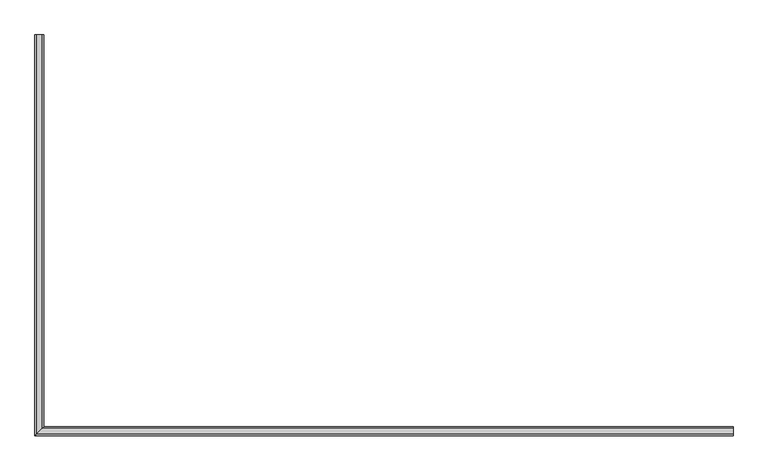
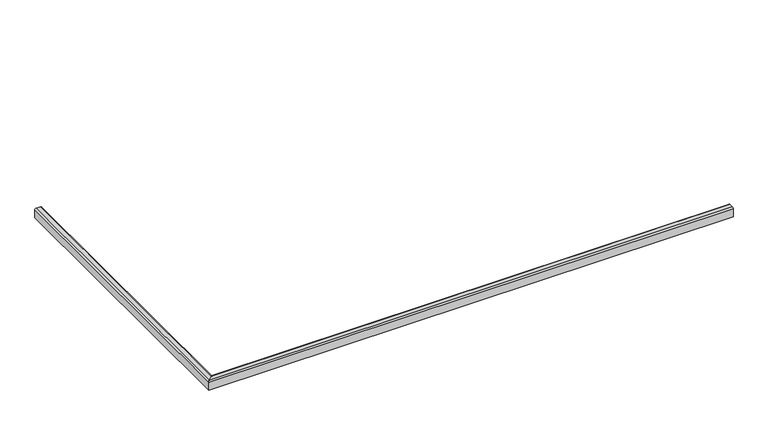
"""IFC4 building model written with IfcOpenShell, lengths in millimetres: railing geometry, Hedge 750mm High."""

from ifc_helpers import new_model, si_unit, frame, origin, place, context, project, spatial, circle_curve, ellipse_curve, source, transform, mapped, element, save
from ifc_brep_helpers import plane_surface, cylinder_surface, advanced_brep


def railing_0e9476dd(model_context):
    return source(origin(), model_context, "Body", "AdvancedBrep", [
        advanced_brep(
        [(-55230.3056755, -36296.4144985, 3550.0), (-55230.3056755, -36596.4144985, 3550.0), (-55230.3056755, -36671.4144985, 3475.0), (-55230.3056755, -36671.4144985, 2900.0), (-55230.3056755, -36491.4144985, 2800.0), (-55230.3056755, -36401.4144985, 2800.0), (-55230.3056755, -36221.4144985, 2900.0), (-55230.3056755, -36221.4144985, 3475.0), (-89910.0001637, -36296.4144985, 3550.0), (-90210.0001637, -36596.4144985, 3550.0), (-90285.0001637, -36671.4144985, 3475.0), (-90285.0001637, -36671.4144985, 2900.0), (-90105.0001637, -36491.4144985, 2800.0), (-90015.0001637, -36401.4144985, 2800.0), (-89835.0001637, -36221.4144985, 2900.0), (-89835.0001637, -36221.4144985, 3475.0), (-89910.0001637, -16538.667229, 3550.0), (-89835.0001637, -16538.667229, 3475.0), (-89835.0001637, -16538.667229, 2900.0), (-90015.0001637, -16538.667229, 2800.0), (-90105.0001637, -16538.667229, 2800.0), (-90285.0001637, -16538.667229, 2900.0), (-90285.0001637, -16538.667229, 3475.0), (-90210.0001637, -16538.667229, 3550.0)],
        [
            (0, 1),
            (1, 2, circle_curve(frame((-55230.3056755, -36596.4144985, 3475.0), z_axis=(1.0, 0.0, 0.0), x_axis=(0.0, 1.0, 0.0)), 75.0)),
            (2, 3),
            (3, 4),
            (4, 5),
            (5, 6),
            (6, 7),
            (7, 0, circle_curve(frame((-55230.3056755, -36296.4144985, 3475.0), z_axis=(1.0, 0.0, 0.0), x_axis=(0.0, 1.0, 0.0)), 75.0)),
            (0, 8),
            (8, 9),
            (9, 1),
            (9, 10, ellipse_curve(frame((-90210.0001637, -36596.4144985, 3475.0), z_axis=(0.7071067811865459, -0.7071067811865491, 0.0), x_axis=(0.7071067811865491, 0.7071067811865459, 0.0)), 106.0660172, 75.0)),
            (10, 2),
            (10, 11),
            (11, 3),
            (11, 12),
            (12, 4),
            (12, 13),
            (13, 5),
            (13, 14),
            (14, 6),
            (14, 15),
            (15, 7),
            (15, 8, ellipse_curve(frame((-89910.0001637, -36296.4144985, 3475.0), z_axis=(0.7071067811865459, -0.7071067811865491, 0.0), x_axis=(0.7071067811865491, 0.7071067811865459, 0.0)), 106.0660172, 75.0)),
            (16, 17, circle_curve(frame((-89910.0001637, -16538.667229, 3475.0), z_axis=(0.0, 1.0, 0.0), x_axis=(1.0, 0.0, 0.0)), 75.0)),
            (17, 18),
            (18, 19),
            (19, 20),
            (20, 21),
            (21, 22),
            (22, 23, circle_curve(frame((-90210.0001637, -16538.667229, 3475.0), z_axis=(0.0, 1.0, 0.0), x_axis=(1.0, 0.0, 0.0)), 75.0)),
            (23, 16),
            (8, 16),
            (23, 9),
            (22, 10),
            (21, 11),
            (20, 12),
            (19, 13),
            (18, 14),
            (17, 15),
        ],
        [
            plane_surface(frame((-55230.3056755, -36438.667229, 3550.0), z_axis=(1.0, 0.0, 0.0), x_axis=(0.0, -1.0, 0.0))),
            plane_surface(frame((-55230.3056755, -36296.4144985, 3550.0), z_axis=(0.0, 0.0, 1.0), x_axis=(-1.0, 0.0, 0.0))),
            cylinder_surface(frame((-55230.3056755, -36596.4144985, 3475.0), z_axis=(1.0, 0.0, 0.0), x_axis=(0.0, 1.0, 0.0)), 75.0),
            plane_surface(frame((-55230.3056755, -36671.4144985, 3475.0), z_axis=(0.0, -1.0, 0.0), x_axis=(-1.0, 0.0, 0.0))),
            plane_surface(frame((-55230.3056755, -36671.4144985, 2900.0), z_axis=(0.0, -0.4856429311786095, -0.8741572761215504), x_axis=(-1.0, 0.0, 0.0))),
            plane_surface(frame((-55230.3056755, -36491.4144985, 2800.0), z_axis=(0.0, 0.0, -1.0), x_axis=(-1.0, 0.0, 0.0))),
            plane_surface(frame((-55230.3056755, -36401.4144985, 2800.0), z_axis=(0.0, 0.48564293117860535, -0.8741572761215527), x_axis=(-1.0, 0.0, 0.0))),
            plane_surface(frame((-55230.3056755, -36221.4144985, 2900.0), z_axis=(0.0, 1.0, 0.0), x_axis=(-1.0, 0.0, 0.0))),
            cylinder_surface(frame((-55230.3056755, -36296.4144985, 3475.0), z_axis=(1.0, 0.0, 0.0), x_axis=(0.0, 1.0, 0.0)), 75.0),
            plane_surface(frame((-90052.2528943, -16538.667229, 3550.0), z_axis=(0.0, 1.0, 0.0), x_axis=(0.0, 0.0, 1.0))),
            plane_surface(frame((-89910.0001637, -36296.4144985, 3550.0), z_axis=(0.0, 0.0, 1.0), x_axis=(0.0, 1.0, 0.0))),
            cylinder_surface(frame((-90210.0001637, -36438.667229, 3475.0), z_axis=(0.0, -1.0, 0.0), x_axis=(1.0, 0.0, 0.0)), 75.0),
            plane_surface(frame((-90285.0001637, -36671.4144985, 3475.0), z_axis=(-1.0, 0.0, 0.0), x_axis=(0.0, 1.0, 0.0))),
            plane_surface(frame((-90285.0001637, -36671.4144985, 2900.0), z_axis=(-0.4856429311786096, 0.0, -0.8741572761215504), x_axis=(0.0, 1.0, 0.0))),
            plane_surface(frame((-90105.0001637, -36491.4144985, 2800.0), z_axis=(0.0, 0.0, -1.0), x_axis=(0.0, 1.0, 0.0))),
            plane_surface(frame((-90015.0001637, -36401.4144985, 2800.0), z_axis=(0.4856429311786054, 0.0, -0.8741572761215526), x_axis=(0.0, 1.0, 0.0))),
            plane_surface(frame((-89835.0001637, -36221.4144985, 2900.0), z_axis=(1.0, 0.0, 0.0), x_axis=(0.0, 1.0, 0.0))),
            cylinder_surface(frame((-89910.0001637, -36438.667229, 3475.0), z_axis=(0.0, -1.0, 0.0), x_axis=(1.0, 0.0, 0.0)), 75.0),
        ],
        [
            (0, [[1, 2, 3, 4, 5, 6, 7, 8]]),
            (1, [[-1, 9, 10, 11]]),
            (2, [[-2, -11, 12, 13]]),
            (3, [[-3, -13, 14, 15]]),
            (4, [[-4, -15, 16, 17]]),
            (5, [[-5, -17, 18, 19]]),
            (6, [[-6, -19, 20, 21]]),
            (7, [[-7, -21, 22, 23]]),
            (8, [[-8, -23, 24, -9]]),
            (9, [[25, 26, 27, 28, 29, 30, 31, 32]]),
            (10, [[-10, 33, -32, 34]]),
            (11, [[-12, -34, -31, 35]]),
            (12, [[-14, -35, -30, 36]]),
            (13, [[-16, -36, -29, 37]]),
            (14, [[-18, -37, -28, 38]]),
            (15, [[-20, -38, -27, 39]]),
            (16, [[-22, -39, -26, 40]]),
            (17, [[-24, -40, -25, -33]]),
        ],
    ),
    ])


if __name__ == "__main__":
    model = new_model("IFC4")
    model_context = context("Model", 3, world=origin())
    ifc_project = project(units=[si_unit("LENGTHUNIT", "METRE", prefix="MILLI")], contexts=[model_context])
    site = spatial("IfcSite", under=ifc_project)
    building = spatial("IfcBuilding", under=site)
    placement = place(None, origin())
    railing_shape = railing_0e9476dd(model_context)
    element("IfcRailing", 1, ObjectType="Hedge 750mm High", at=placement, inside=building, context=model_context, shape_type="MappedRepresentation", body=[
        mapped(railing_shape, transform((0.0, 0.0, 0.0), x_axis=(1.0, 0.0, 0.0), y_axis=(0.0, 1.0, 0.0), z_axis=(0.0, 0.0, 1.0))),
    ])
    save(model, "model.ifc")
